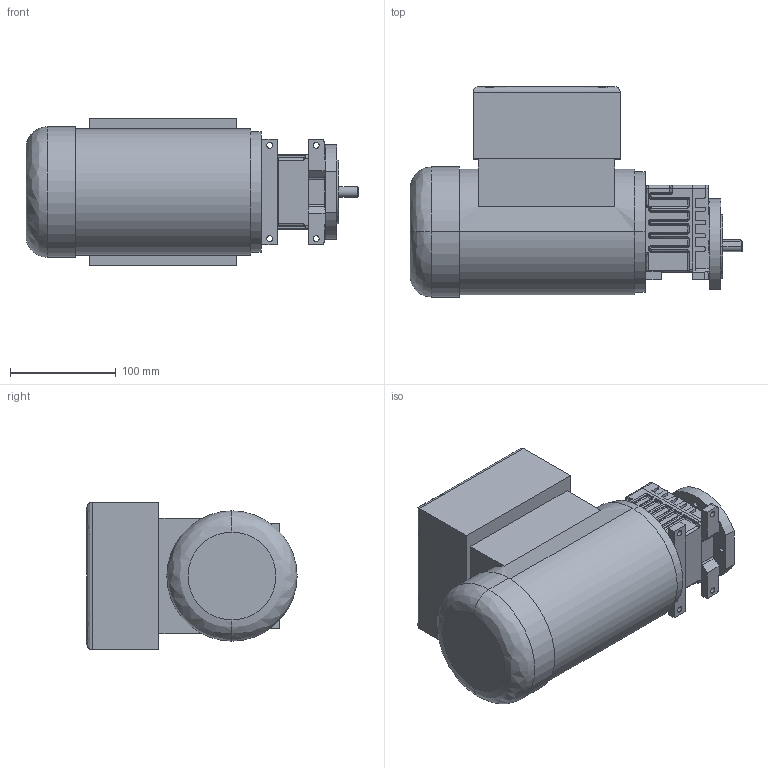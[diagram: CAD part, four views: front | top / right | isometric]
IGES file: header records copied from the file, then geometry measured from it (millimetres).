
Start section: Elysium IGES Interface
Global section: file name: E:\000 CAD\122 G2_Serie\01 Zusammenstellung+U-Satz+Stueckliste\122_013 ...._Getriebe\G23_G27_BF_B14R_Motor_Bgr_63_EEXDe_3D.igs; native system: SolidDesigner 15.00B  25-Jun-2007; preprocessor: OneSpace IGES_3D V2.2; author: Unknown; organization: Unknown; date: 20070827.144310; units: millimetre
Bounding box: 313.5 x 198.5 x 139 mm (x, y, z)
Volume: 4467523.8 mm3; surface area: 204971.3 mm2
Topology: 1 solids, 1 shells, 507 faces, 1272 edges, 771 vertices
Faces by surface type: bspline 507
